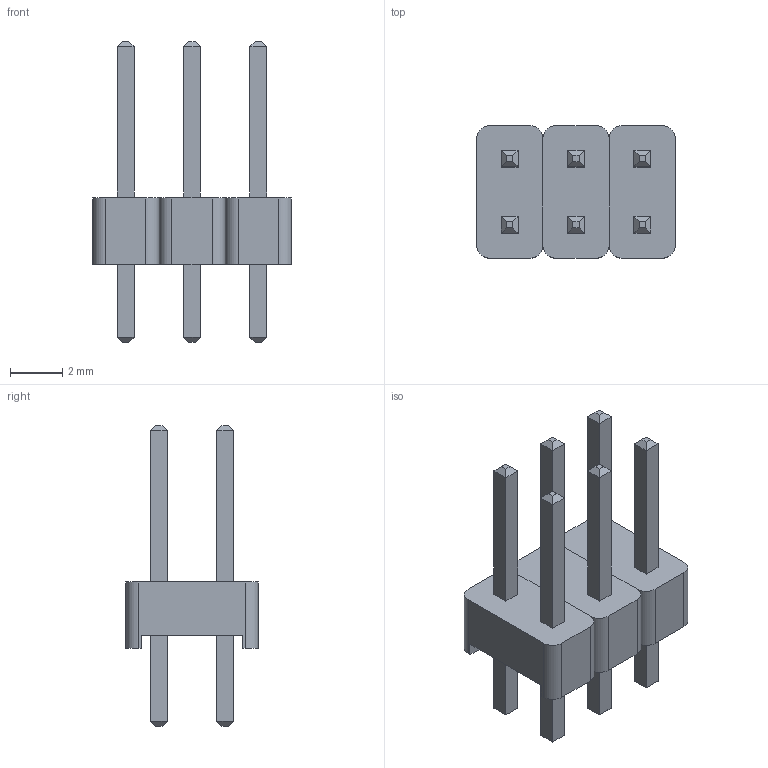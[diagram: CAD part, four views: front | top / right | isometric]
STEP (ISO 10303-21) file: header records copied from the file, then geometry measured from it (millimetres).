
FILE_DESCRIPTION(('FreeCAD Model'),'2;1');
FILE_NAME('Open CASCADE Shape Model','2022-04-06T15:23:47',( 'Engenharia Metaltex'),('Metaltex'), 'Open CASCADE STEP processor 7.5','FreeCAD','Unknown');
FILE_SCHEMA(('AUTOMOTIVE_DESIGN { 1 0 10303 214 1 1 1 1 }'));
Length unit declared in the file: millimetre
Products named in the file (13): BPDC; 1; Base; Pino1; Pino2; 2; Base001; Pino003; Pino004; 3; Base002; Pino006; Pino005
Assembly tree (12 placements, depth 3):
  BPDC
    1
      Base
      Pino1
      Pino2
    2
      Base001
      Pino003
      Pino004
    3
      Base002
      Pino006
      Pino005
Bounding box: 7.62 x 5.08 x 11.54 mm (x, y, z)
Volume: 104.8 mm3; surface area: 385.9 mm2
Topology: 9 solids, 9 shells, 150 faces, 348 edges, 216 vertices
Faces by surface type: plane 138, cylinder 12
Entity records: 9019 total; most frequent: CARTESIAN_POINT 1495, DIRECTION 1382, LINE 996, VECTOR 996, ORIENTED_EDGE 696, PCURVE 696, DEFINITIONAL_REPRESENTATION 696, EDGE_CURVE 348
